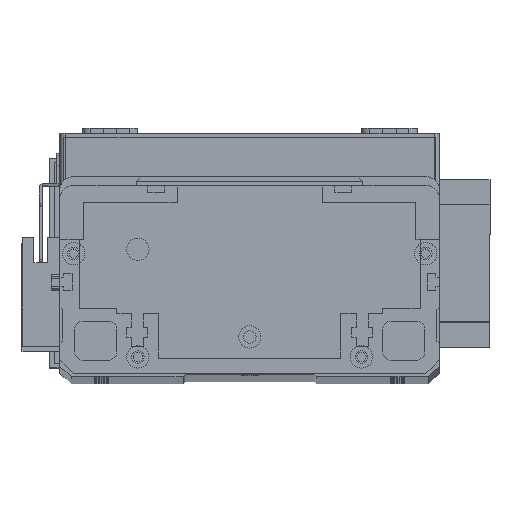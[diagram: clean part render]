
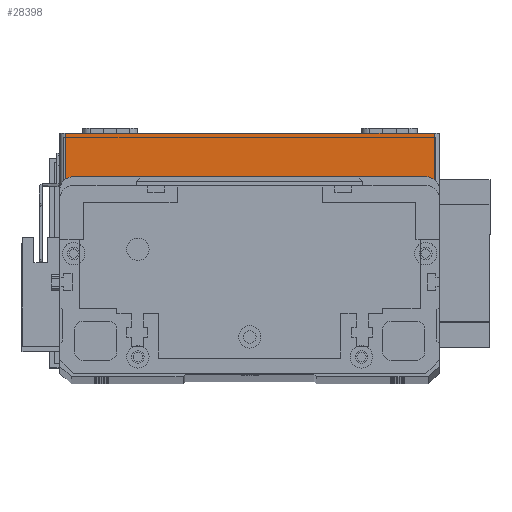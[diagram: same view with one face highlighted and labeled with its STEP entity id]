
A CAD part, top view. The second image highlights one B-rep face of the part: STEP entity #28398.
In plain terms, the highlighted planar face has unit normal (0, 0, 1) as drawn and (0, -1, 0) by its records, which use the part's own axes.
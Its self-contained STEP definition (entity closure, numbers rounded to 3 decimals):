
#129 = VECTOR ( 'NONE', #29154, 1000. ) ;
#297 = ORIENTED_EDGE ( 'NONE', *, *, #16711, .T. ) ;
#1542 = VERTEX_POINT ( 'NONE', #9637 ) ;
#1825 = CARTESIAN_POINT ( 'NONE',  ( 2., 0., 19.5 ) ) ;
#2119 = DIRECTION ( 'NONE',  ( 0., 0., 1. ) ) ;
#3616 = DIRECTION ( 'NONE',  ( 0., 0., 1. ) ) ;
#3832 = DIRECTION ( 'NONE',  ( 1., 0., 0. ) ) ;
#6817 = VECTOR ( 'NONE', #27209, 1000. ) ;
#9637 = CARTESIAN_POINT ( 'NONE',  ( 134., 0., 0. ) ) ;
#9746 = EDGE_CURVE ( 'NONE', #19214, #16509, #18949, .T. ) ;
#10368 = CARTESIAN_POINT ( 'NONE',  ( 134., 0., 19.5 ) ) ;
#11252 = EDGE_LOOP ( 'NONE', ( #28161, #28206, #297, #27643 ) ) ;
#13407 = VECTOR ( 'NONE', #3616, 1000. ) ;
#13982 = VECTOR ( 'NONE', #3832, 1000. ) ;
#14134 = LINE ( 'NONE', #10368, #13407 ) ;
#14966 = VERTEX_POINT ( 'NONE', #16683 ) ;
#15548 = EDGE_CURVE ( 'NONE', #19214, #14966, #24401, .T. ) ;
#15761 = DIRECTION ( 'NONE',  ( 0., 1., 0. ) ) ;
#16509 = VERTEX_POINT ( 'NONE', #16687 ) ;
#16683 = CARTESIAN_POINT ( 'NONE',  ( 2., 0., 0. ) ) ;
#16687 = CARTESIAN_POINT ( 'NONE',  ( 134., 0., 19.5 ) ) ;
#16711 = EDGE_CURVE ( 'NONE', #14966, #1542, #23975, .T. ) ;
#18949 = LINE ( 'NONE', #29406, #6817 ) ;
#19214 = VERTEX_POINT ( 'NONE', #19722 ) ;
#19688 = AXIS2_PLACEMENT_3D ( 'NONE', #29446, #15761, #2119 ) ;
#19722 = CARTESIAN_POINT ( 'NONE',  ( 2., 0., 19.5 ) ) ;
#20269 = PLANE ( 'NONE',  #19688 ) ;
#22211 = CARTESIAN_POINT ( 'NONE',  ( 0., 0., 0. ) ) ;
#23975 = LINE ( 'NONE', #22211, #13982 ) ;
#23993 = FACE_OUTER_BOUND ( 'NONE', #11252, .T. ) ;
#24401 = LINE ( 'NONE', #1825, #129 ) ;
#25971 = EDGE_CURVE ( 'NONE', #1542, #16509, #14134, .T. ) ;
#27209 = DIRECTION ( 'NONE',  ( 1., 0., 0. ) ) ;
#27643 = ORIENTED_EDGE ( 'NONE', *, *, #25971, .T. ) ;
#28161 = ORIENTED_EDGE ( 'NONE', *, *, #9746, .F. ) ;
#28206 = ORIENTED_EDGE ( 'NONE', *, *, #15548, .T. ) ;
#28398 = ADVANCED_FACE ( 'NONE', ( #23993 ), #20269, .F. ) ;
#29154 = DIRECTION ( 'NONE',  ( 0., 0., -1. ) ) ;
#29406 = CARTESIAN_POINT ( 'NONE',  ( 0., 0., 19.5 ) ) ;
#29446 = CARTESIAN_POINT ( 'NONE',  ( 0., 0., 19.5 ) ) ;
